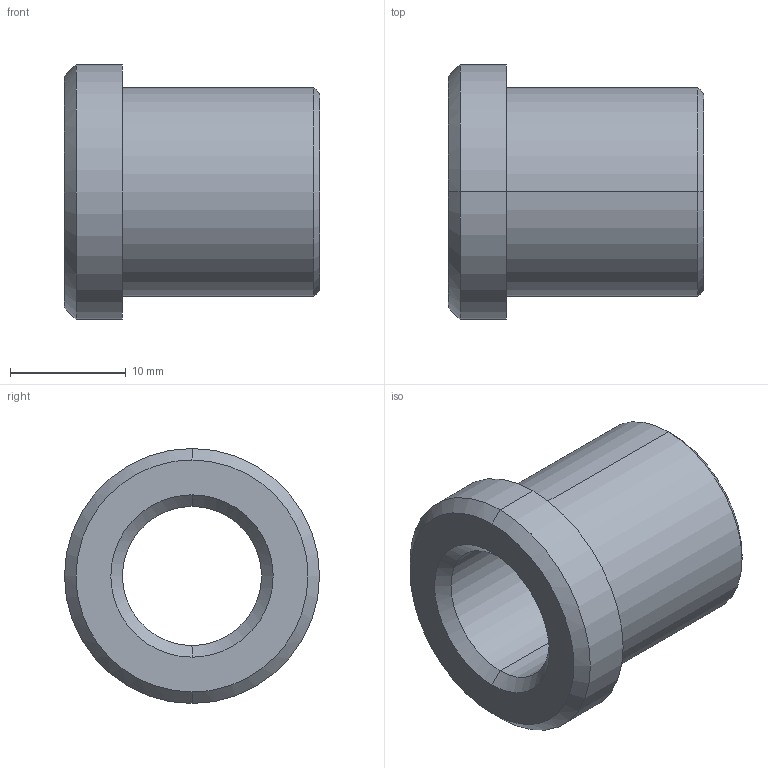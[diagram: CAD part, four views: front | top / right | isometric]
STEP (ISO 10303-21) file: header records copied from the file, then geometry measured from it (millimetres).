
FILE_DESCRIPTION(('CATIA V5 STEP Exchange'),'2;1');
FILE_NAME('C:\Users\Utente\Desktop\IO LAVORO\3D X SITO CF\X SITO\PLASTICA\353\353-12X22.stp','2021-04-21T12:23:15+00:00',('none'),('none'),'CATIA Version 5 Release 20 GA (IN-10)','CATIA V5 STEP AP203','none');
FILE_SCHEMA(('CONFIG_CONTROL_DESIGN'));
Length unit declared in the file: millimetre
Products named in the file (1): 353-12X22
Bounding box: 22 x 22 x 22 mm (x, y, z)
Volume: 3669.8 mm3; surface area: 2575.2 mm2
Topology: 1 solids, 1 shells, 17 faces, 54 edges, 40 vertices
Faces by surface type: cone 6, cylinder 6, plane 3, torus 2
Entity records: 746 total; most frequent: CARTESIAN_POINT 224, ORIENTED_EDGE 108, DIRECTION 80, EDGE_CURVE 54, AXIS2_PLACEMENT_3D 52, VERTEX_POINT 40, CIRCLE 34, EDGE_LOOP 20
